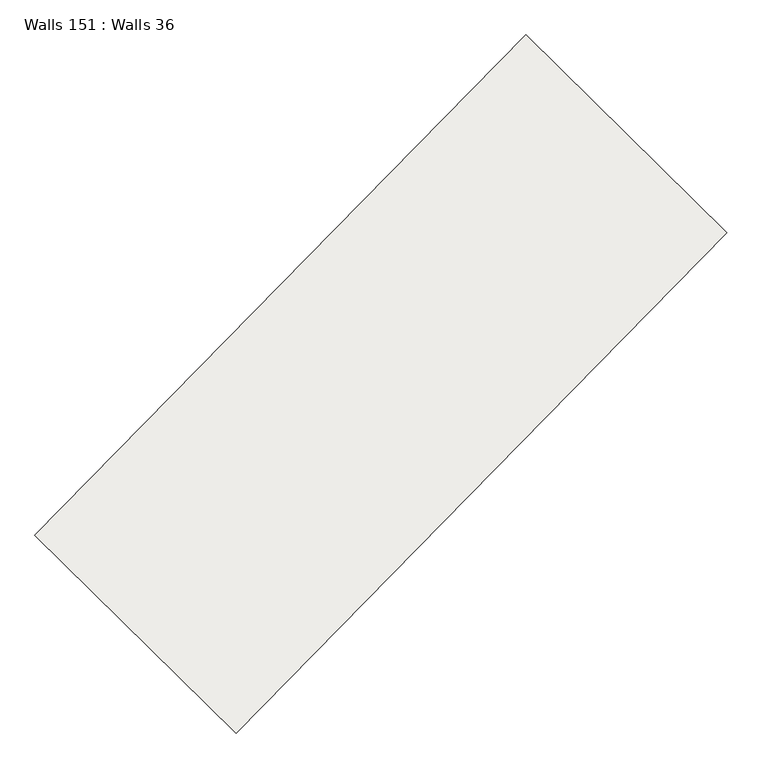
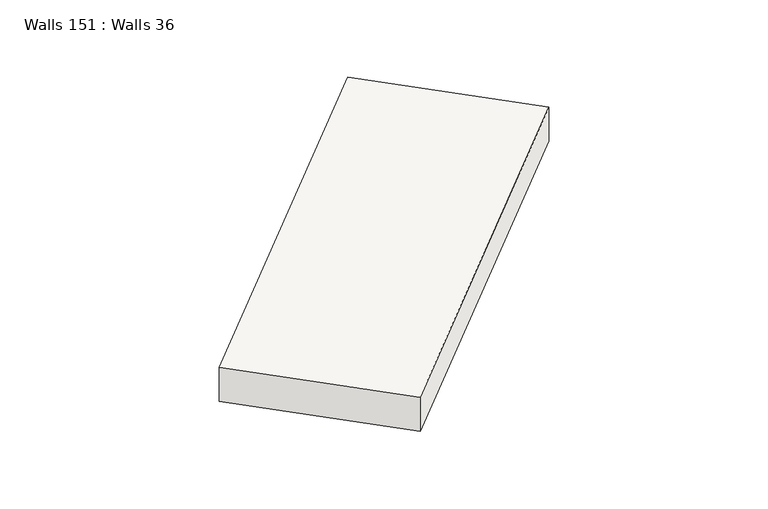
"""IFC4 building model written with IfcOpenShell, lengths in millimetres: slab geometry, Walls 151 : Walls 36."""

from ifc_helpers import new_model, si_unit, frame, origin, place, context, project, spatial, polyline, outline, extrude, source, transform, mapped, element, save


def walls_151_walls_36_898947b3(model_context):
    return source(origin(), model_context, "Body", "SweptSolid", [
        extrude(outline(polyline([(-350.0, 0.0), (350.0, 0.0), (270.0, -8700.0000009), (-430.0, -8700.0000009), (-350.0, 0.0)])), frame((-164548.9026202, -326880.7978752, 636050.0), z_axis=(-0.7137361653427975, 0.7004146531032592, 0.0), x_axis=(0.0, 0.0, 1.0)), (0.0, 0.0, 1.0), 3499.999995),
    ])


if __name__ == "__main__":
    model = new_model("IFC4")
    model_context = context("Model", 3, world=origin())
    ifc_project = project(units=[si_unit("LENGTHUNIT", "METRE", prefix="MILLI")], contexts=[model_context])
    site = spatial("IfcSite", under=ifc_project)
    building = spatial("IfcBuilding", under=site)
    placement = place(None, origin())
    walls_151_walls_36_shape = walls_151_walls_36_898947b3(model_context)
    element("IfcSlab", 1, ObjectType="Walls 151 : Walls 36", at=placement, inside=building, context=model_context, shape_type="MappedRepresentation", body=[
        mapped(walls_151_walls_36_shape, transform((0.0, 0.0, 0.0), x_axis=(1.0, 0.0, 0.0), y_axis=(0.0, 1.0, 0.0), z_axis=(0.0, 0.0, 1.0))),
    ])
    save(model, "model.ifc")
